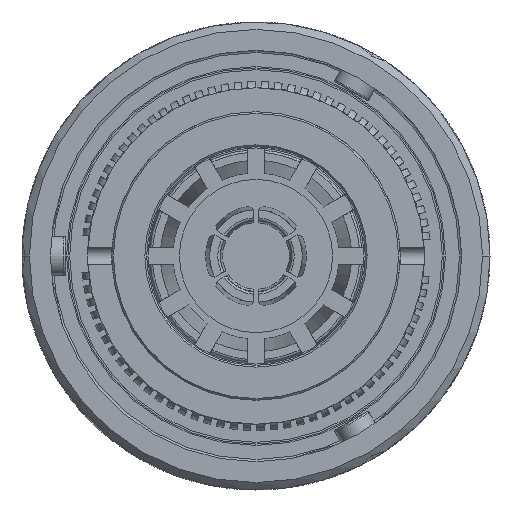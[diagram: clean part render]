
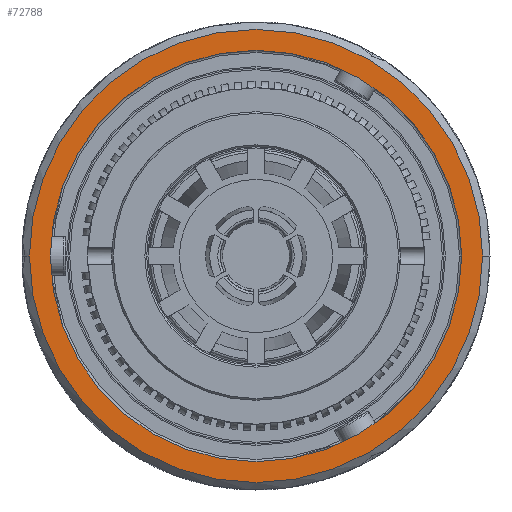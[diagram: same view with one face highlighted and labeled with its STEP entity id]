
A CAD part, left-side view. The second image highlights one B-rep face of the part: STEP entity #72788.
In plain terms, the highlighted planar face has unit normal (-1, 0, 0).
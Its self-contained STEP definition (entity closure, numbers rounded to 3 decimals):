
#16945=CARTESIAN_POINT('',(2.2,0.,0.));
#16946=DIRECTION('',(1.,0.,0.));
#16947=DIRECTION('',(0.,1.,0.));
#16948=AXIS2_PLACEMENT_3D('',#16945,#16946,#16947);
#17128=CARTESIAN_POINT('',(2.2,0.,0.));
#17129=DIRECTION('',(-1.,0.,0.));
#17130=DIRECTION('',(0.,1.,0.));
#17131=AXIS2_PLACEMENT_3D('',#17128,#17129,#17130);
#17385=CARTESIAN_POINT('',(2.2,0.,0.));
#17386=DIRECTION('',(1.,0.,0.));
#17387=DIRECTION('',(0.,1.,0.));
#17388=AXIS2_PLACEMENT_3D('',#17385,#17386,#17387);
#17390=CARTESIAN_POINT('',(2.2,0.,0.));
#17391=DIRECTION('',(-1.,0.,0.));
#17392=DIRECTION('',(0.,1.,0.));
#17393=AXIS2_PLACEMENT_3D('',#17390,#17391,#17392);
#39669=CARTESIAN_POINT('',(2.2,23.51,0.));
#39670=CARTESIAN_POINT('',(2.2,-23.51,0.));
#39671=VERTEX_POINT('',#39669);
#39672=VERTEX_POINT('',#39670);
#39699=CARTESIAN_POINT('',(2.2,-25.9,0.));
#39701=VERTEX_POINT('',#39699);
#39703=CARTESIAN_POINT('',(2.2,25.9,0.));
#39704=VERTEX_POINT('',#39703);
#72773=CARTESIAN_POINT('',(2.2,0.,0.));
#72774=DIRECTION('',(-1.,0.,0.));
#72775=DIRECTION('',(0.,-1.,0.));
#72776=AXIS2_PLACEMENT_3D('',#72773,#72774,#72775);
#72777=PLANE('536',#72776);
#72778=ORIENTED_EDGE('4298',*,*,#72129,.F.);
#72779=ORIENTED_EDGE('4299',*,*,#71784,.T.);
#72780=EDGE_LOOP('536',(#72778,#72779));
#72781=FACE_OUTER_BOUND('536',#72780,.F.);
#72783=ORIENTED_EDGE('4283',*,*,#72782,.F.);
#72785=ORIENTED_EDGE('4282',*,*,#72784,.T.);
#72786=EDGE_LOOP('536',(#72783,#72785));
#72787=FACE_BOUND('536',#72786,.F.);
#16949=CIRCLE('4299',#16948,25.9);
#17132=CIRCLE('4298',#17131,25.9);
#17389=CIRCLE('4283',#17388,23.51);
#17394=CIRCLE('4282',#17393,23.51);
#71784=EDGE_CURVE('4299',#39704,#39701,#16949,.T.);
#72129=EDGE_CURVE('4298',#39704,#39701,#17132,.T.);
#72782=EDGE_CURVE('4283',#39671,#39672,#17389,.T.);
#72784=EDGE_CURVE('4282',#39671,#39672,#17394,.T.);
#72788=ADVANCED_FACE('536',(#72781,#72787),#72777,.T.);
